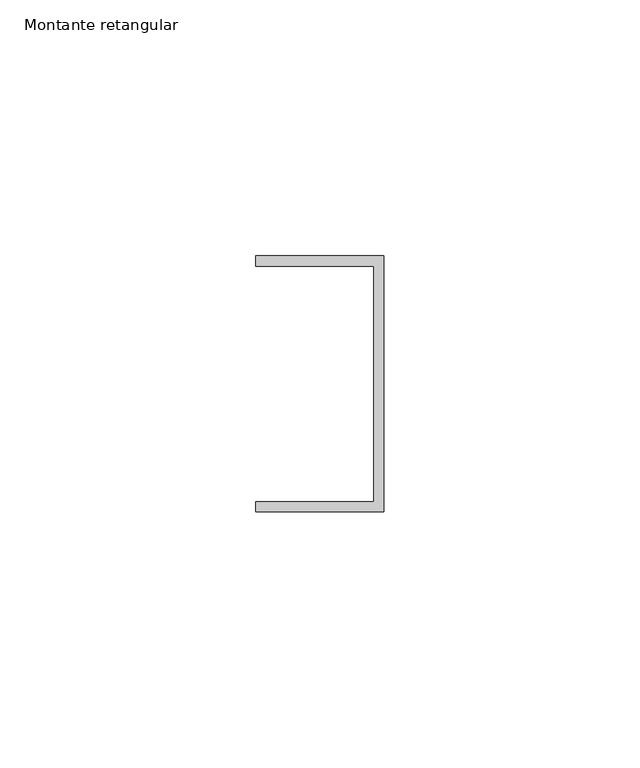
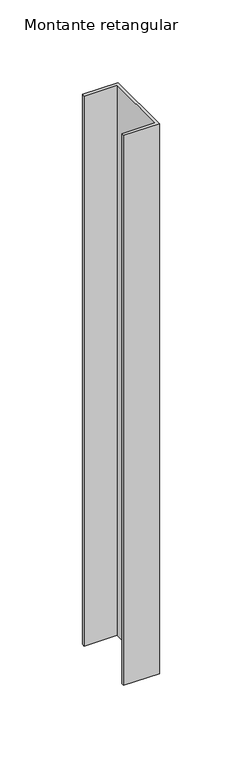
"""IFC4 building model written with IfcOpenShell, lengths in millimetres: member geometry, Montante retangular : FDE_MontanteVenezianaIndustrial_BordaOpção1_Ref50 (Alumínio Anodizado)."""

import ifcopenshell
import ifcopenshell.guid

model = None  # the IFC model being written
_history = None  # IfcOwnerHistory: only IFC2X3 demands one
_inside = {}  # id of a spatial element -> (the spatial element, [elements in it])
_under = {}  # id of a project, library or spatial element -> (it, [spatial elements below it])
_declared = {}  # id of a project -> (the project, [libraries it declares])
_typed = {}  # id of a type object -> (the type object, [elements of that type])
_made_of = {}  # id of a material, layer set ... -> (it, [elements and type objects made of it])


def new_model(schema):
    """Start an empty IFC model of exactly this schema.

    Asked for "IFC4X3", IfcOpenShell would pick the latest addendum, in which some entities
    have other attributes; the version numbers below select the first issue.
    IFC2X3 requires an IfcOwnerHistory on every rooted entity: one is made here for all.
    """
    global model, _history
    if schema == "IFC4X3":
        model = ifcopenshell.file(schema_version=(4, 3, 0, 0))
    else:
        model = ifcopenshell.file(schema=schema)
    _inside.clear()
    _under.clear()
    _declared.clear()
    _typed.clear()
    _made_of.clear()
    _history = None
    if model.schema == "IFC2X3":
        org = make("IfcOrganization", Name="unknown")
        user = make(
            "IfcPersonAndOrganization",
            ThePerson=make("IfcPerson", FamilyName="unknown"),
            TheOrganization=org,
        )
        app = make(
            "IfcApplication",
            ApplicationDeveloper=org,
            Version="unknown",
            ApplicationFullName="unknown",
            ApplicationIdentifier="unknown",
        )
        _history = make(
            "IfcOwnerHistory",
            OwningUser=user,
            OwningApplication=app,
            ChangeAction="ADDED",
            CreationDate=0,
        )
    return model


def make(cls, **values):
    """One entity of the class cls with the attributes given. An attribute that is None is left unset."""
    return model.create_entity(
        cls, **{name: value for name, value in values.items() if value is not None}
    )


def rooted(cls, **values):
    """An entity with a GlobalId (a new one), such as an element, a storey or a relation."""
    return make(cls, GlobalId=ifcopenshell.guid.new(), OwnerHistory=_history, **values)


def si_unit(unit_type, name, prefix=None):
    """IfcSIUnit, for example si_unit("LENGTHUNIT", "METRE", prefix="MILLI")."""
    return make("IfcSIUnit", UnitType=unit_type, Prefix=prefix, Name=name)


def assignment(units):
    """IfcUnitAssignment: the units of a project."""
    return None if units is None else make("IfcUnitAssignment", Units=units)


def point(xyz):
    """IfcCartesianPoint."""
    return None if xyz is None else make("IfcCartesianPoint", Coordinates=xyz)


def direction(xyz):
    """IfcDirection."""
    return None if xyz is None else make("IfcDirection", DirectionRatios=xyz)


def frame(location, z_axis=None, x_axis=None):
    """IfcAxis2Placement3D, a coordinate frame: its origin and axes. An axis left out is left unset."""
    return make(
        "IfcAxis2Placement3D",
        Location=point(location),
        Axis=direction(z_axis),
        RefDirection=direction(x_axis),
    )


def origin():
    """The frame at (0, 0, 0) with its axes left unset."""
    return frame((0.0, 0.0, 0.0))


def place(relative_to, where):
    """IfcLocalPlacement: puts the frame where relative to a parent placement (None: the world)."""
    return make(
        "IfcLocalPlacement", PlacementRelTo=relative_to, RelativePlacement=where
    )


def context(
    kind, dimensions, precision=None, world=None, true_north=None, identifier=None
):
    """IfcGeometricRepresentationContext, for example the 3D "Model" context."""
    return make(
        "IfcGeometricRepresentationContext",
        ContextIdentifier=identifier,
        ContextType=kind,
        CoordinateSpaceDimension=dimensions,
        Precision=precision,
        WorldCoordinateSystem=world,
        TrueNorth=true_north,
    )


def project(units=None, contexts=None):
    """IfcProject with its units and contexts."""
    return rooted(
        "IfcProject",
        Name="project",
        RepresentationContexts=contexts,
        UnitsInContext=assignment(units),
    )


def spatial(cls, under=None, at=None, **own):
    """A site, building, storey or space (cls), placed at a placement, below another one or the project."""
    s = rooted(cls, ObjectPlacement=at, **own)
    if under is not None:
        _under.setdefault(under.id(), (under, []))[1].append(s)
    return s


def polyline(points):
    """IfcPolyline through the points."""
    return make("IfcPolyline", Points=[point(p) for p in points])


def outline(outer, holes=None, kind="AREA"):
    """IfcArbitraryClosedProfileDef: a profile drawn as a closed curve; with holes, ...WithVoids."""
    if holes is None:
        return make("IfcArbitraryClosedProfileDef", ProfileType=kind, OuterCurve=outer)
    return make(
        "IfcArbitraryProfileDefWithVoids",
        ProfileType=kind,
        OuterCurve=outer,
        InnerCurves=holes,
    )


def extrude(swept, where, along, depth):
    """IfcExtrudedAreaSolid: the profile swept, set in the frame where, extruded along a direction by depth."""
    return make(
        "IfcExtrudedAreaSolid",
        SweptArea=swept,
        Position=where,
        ExtrudedDirection=direction(along),
        Depth=depth,
    )


def shape(context_of_items, identifier, shape_type, items):
    """IfcShapeRepresentation: the items that make up one representation, for example the "Body"."""
    return make(
        "IfcShapeRepresentation",
        ContextOfItems=context_of_items,
        RepresentationIdentifier=identifier,
        RepresentationType=shape_type,
        Items=items,
    )


def source(mapping_origin, context_of_items, identifier, shape_type, items):
    """IfcRepresentationMap: a shape defined once, which mapped items show again and again."""
    return make(
        "IfcRepresentationMap",
        MappingOrigin=mapping_origin,
        MappedRepresentation=shape(context_of_items, identifier, shape_type, items),
    )


def transform(
    local_origin,
    x_axis=None,
    y_axis=None,
    z_axis=None,
    scale=None,
    scale2=None,
    scale3=None,
    uniform=True,
):
    """IfcCartesianTransformationOperator3D, or its non-uniform kind. x_axis, y_axis, z_axis: its Axis1, 2, 3."""
    if uniform:
        return make(
            "IfcCartesianTransformationOperator3D",
            Axis1=direction(x_axis),
            Axis2=direction(y_axis),
            LocalOrigin=point(local_origin),
            Scale=scale,
            Axis3=direction(z_axis),
        )
    return make(
        "IfcCartesianTransformationOperator3DnonUniform",
        Axis1=direction(x_axis),
        Axis2=direction(y_axis),
        LocalOrigin=point(local_origin),
        Scale=scale,
        Axis3=direction(z_axis),
        Scale2=scale2,
        Scale3=scale3,
    )


def mapped(mapping_source, mapping_target):
    """IfcMappedItem: shows the shape of a source again, moved by a transform."""
    return make(
        "IfcMappedItem", MappingSource=mapping_source, MappingTarget=mapping_target
    )


def made_of(thing, what):
    """Note that an element or type object is made of a material, layer set ...; save() writes the relation."""
    if what is not None:
        _made_of.setdefault(what.id(), (what, []))[1].append(thing)
    return thing


def element(
    cls,
    number,
    at=None,
    inside=None,
    cuts=None,
    type_object=None,
    material=None,
    context=None,
    identifier="Body",
    shape_type=None,
    held_by="IfcProductDefinitionShape",
    body=None,
    shapes=None,
    **own,
):
    """One element of the class cls, such as IfcWall. Its Tag is "e" and its number.

    at: its placement. inside: the storey or other place that contains it. cuts: it is an
    opening in that element (IfcRelVoidsElement). A single representation is given by context,
    identifier, shape_type and body (its items); several are given by shapes. held_by: the class
    of the entity that holds the representations. save() writes the other relations.
    """
    e = rooted(cls, Tag="e%d" % number, ObjectPlacement=at, **own)
    if body is not None:
        shapes = [shape(context, identifier, shape_type, body)]
    if shapes is not None:
        e.Representation = make(held_by, Representations=shapes)
    if inside is not None:
        _inside.setdefault(inside.id(), (inside, []))[1].append(e)
    if cuts is not None:
        rooted(
            "IfcRelVoidsElement", RelatingBuildingElement=cuts, RelatedOpeningElement=e
        )
    if type_object is not None:
        _typed.setdefault(type_object.id(), (type_object, []))[1].append(e)
    return made_of(e, material)


def aggregate(whole, parts):
    """IfcRelAggregates: a whole, such as a stair, and the parts it consists of."""
    return rooted("IfcRelAggregates", RelatingObject=whole, RelatedObjects=parts)


def save(model, path):
    """Write the relations noted so far, then the file.

    IfcRelAggregates (storeys below a building ...), IfcRelContainedInSpatialStructure (elements
    in a storey), IfcRelDefinesByType, IfcRelAssociatesMaterial and IfcRelDeclares: one each for
    every whole, place, type object, material and project.
    """
    for whole, parts in _under.values():
        aggregate(whole, parts)
    for where, things in _inside.values():
        rooted(
            "IfcRelContainedInSpatialStructure",
            RelatedElements=things,
            RelatingStructure=where,
        )
    for kind, things in _typed.values():
        rooted("IfcRelDefinesByType", RelatedObjects=things, RelatingType=kind)
    for what, things in _made_of.values():
        rooted("IfcRelAssociatesMaterial", RelatedObjects=things, RelatingMaterial=what)
    for by, libraries in _declared.values():
        rooted("IfcRelDeclares", RelatingContext=by, RelatedDefinitions=libraries)
    model.write(path)


def montante_retangular_542d65e8(model_context):
    return source(origin(), model_context, "Body", "SweptSolid", [
        extrude(outline(polyline([(0.0, 25.0), (0.0, -25.0), (-25.0, -25.0), (-25.0, -23.0), (-2.0, -23.0), (-2.0, 23.0), (-25.0, 23.0), (-25.0, 25.0), (0.0, 25.0)])), frame((0.0, 0.0, -406.5789476), z_axis=(0.0, 0.0, 1.0), x_axis=(1.0, 0.0, 0.0)), (0.0, 0.0, 1.0), 406.5789476),
    ])


if __name__ == "__main__":
    model = new_model("IFC4")
    model_context = context("Model", 3, world=origin())
    ifc_project = project(units=[si_unit("LENGTHUNIT", "METRE", prefix="MILLI")], contexts=[model_context])
    site = spatial("IfcSite", under=ifc_project)
    building = spatial("IfcBuilding", under=site)
    placement = place(None, origin())
    montante_retangular_shape = montante_retangular_542d65e8(model_context)
    element("IfcMember", 1, ObjectType="Montante retangular : FDE_MontanteVenezianaIndustrial_BordaOpção1_Ref50 (Alumínio Anodizado)", at=placement, inside=building, context=model_context, shape_type="MappedRepresentation", body=[
        mapped(montante_retangular_shape, transform((0.0, 0.0, 0.0), x_axis=(1.0, 0.0, 0.0), y_axis=(0.0, 1.0, 0.0), z_axis=(0.0, 0.0, 1.0))),
    ])
    save(model, "model.ifc")
